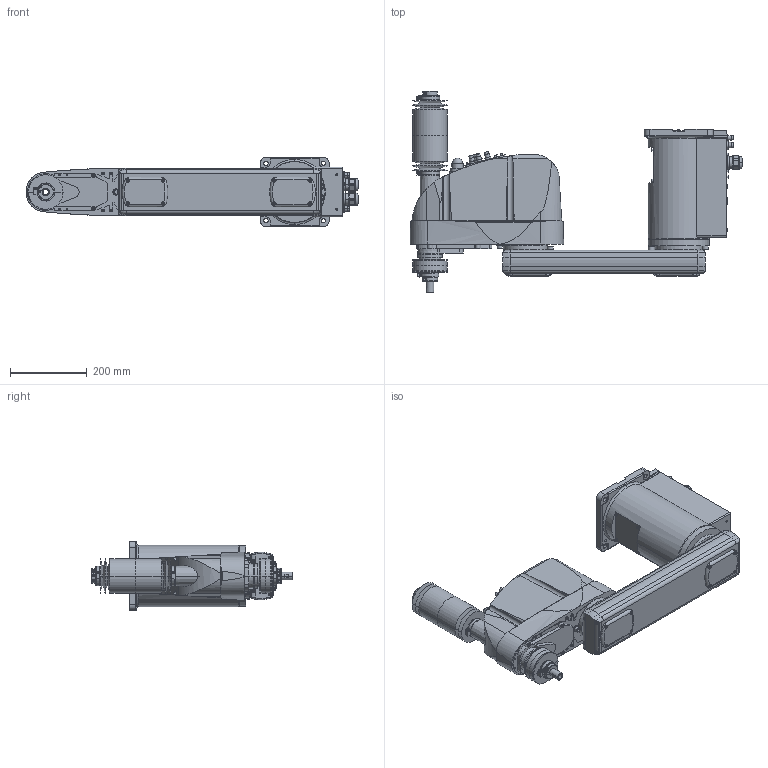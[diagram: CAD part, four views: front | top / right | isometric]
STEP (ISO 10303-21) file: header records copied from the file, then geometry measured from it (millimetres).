
FILE_DESCRIPTION( ( '' ), '1' );
FILE_NAME( '//expscmdclustefs.cadenas.external/client_exchange/iodir/jobs/output/wkb51545280_no0/STEP/G6_651CR_2_14b.stp', '2012-11-23T12:39:07', ( '' ), ( '' ), ' ', ' ', ' ' );
FILE_SCHEMA( ( 'automotive_design' ) );
Length unit declared in the file: millimetre
Products named in the file (8): 1; 2; 3; 4; 5; 6; 7; 8
Bounding box: 867.5 x 526 x 180 mm (x, y, z)
Volume: 22107497.2 mm3; surface area: 1118013.7 mm2
Topology: 8 solids, 8 shells, 1798 faces, 4383 edges, 2813 vertices
Faces by surface type: plane 926, cylinder 604, cone 232, torus 35, sphere 1
Entity records: 106437 total; most frequent: CARTESIAN_POINT 12826, DIRECTION 9272, STYLED_ITEM 8976, PRESENTATION_STYLE_ASSIGNMENT 8976, COLOUR_RGB 8976, ORIENTED_EDGE 8714, EDGE_CURVE 4357, CURVE_STYLE 4357
